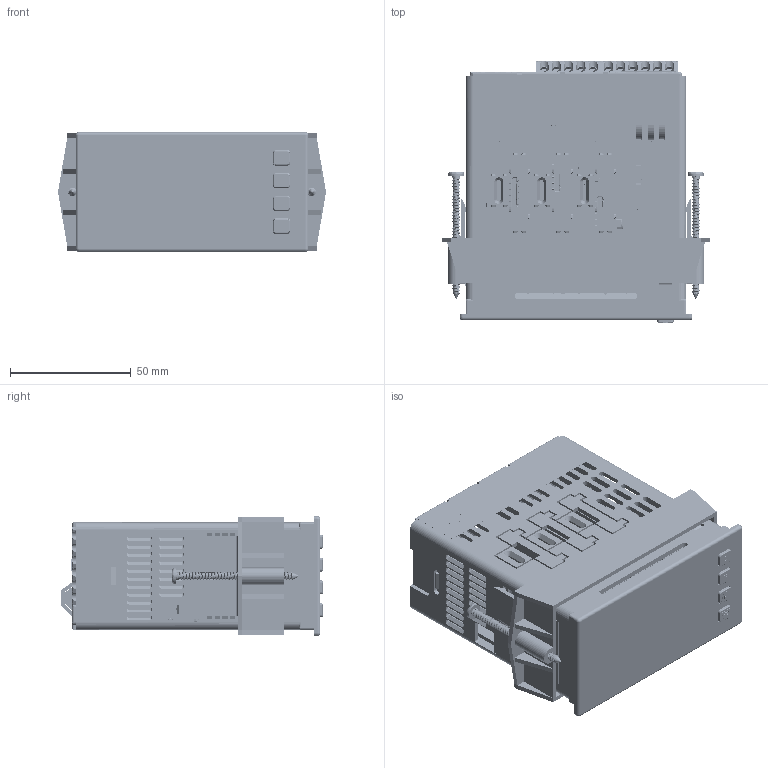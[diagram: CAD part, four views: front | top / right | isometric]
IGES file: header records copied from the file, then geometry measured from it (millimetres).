
Start section: SolidWorks IGES file using analytic representation for surfaces
Global section: file name: W:\Teams\Mech\SE data\Product_Lines\Customer 3D Models (Step files)\PAX2C\IGES\PAX2C.IGS; native system: SolidWorks 2022; preprocessor: SolidWorks 2022; author: joseph.cirabisi; date: 221220.144351; units: millimetre
Bounding box: 111.07 x 108.71 x 49.53 mm (x, y, z)
Surface area: 204723.2 mm2 (no closed solid volume)
Topology: 0 solids, 0 shells, 11865 faces, 96432 edges, 96281 vertices
Faces by surface type: bspline 9329, revolution 2536
